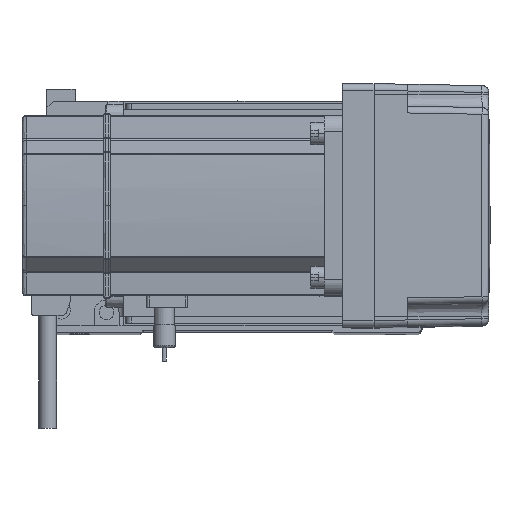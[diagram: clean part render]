
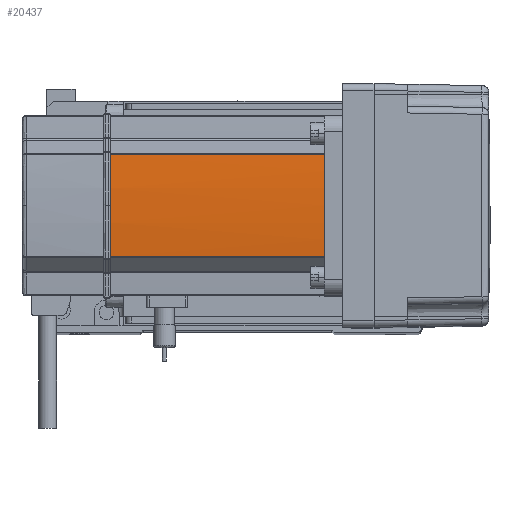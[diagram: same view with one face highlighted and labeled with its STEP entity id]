
A CAD part, top view. The second image highlights one B-rep face of the part: STEP entity #20437.
In plain terms, the highlighted cylindrical face has radius 270 mm (diameter 540 mm), a partial arc.
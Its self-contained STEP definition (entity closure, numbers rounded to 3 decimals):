
#112 = ORIENTED_EDGE ( 'NONE', *, *, #541, .T. ) ;
#541 = EDGE_CURVE ( 'NONE', #13506, #49333, #27135, .T. ) ;
#1915 = CARTESIAN_POINT ( 'NONE',  ( -39.042, -22.724, 39. ) ) ;
#2115 = CARTESIAN_POINT ( 'NONE',  ( -39.042, 22.724, 0. ) ) ;
#2308 = VERTEX_POINT ( 'NONE', #15108 ) ;
#3139 = CIRCLE ( 'NONE', #52728, 270. ) ;
#3818 = VERTEX_POINT ( 'NONE', #1915 ) ;
#9547 = FACE_OUTER_BOUND ( 'NONE', #40605, .T. ) ;
#9891 = CARTESIAN_POINT ( 'NONE',  ( 230., 0., 134. ) ) ;
#10644 = CARTESIAN_POINT ( 'NONE',  ( -39.042, -22.724, 0. ) ) ;
#10738 = DIRECTION ( 'NONE',  ( 0., 0., -1. ) ) ;
#11198 = DIRECTION ( 'NONE',  ( 0., 0., 1. ) ) ;
#12458 = AXIS2_PLACEMENT_3D ( 'NONE', #36797, #10738, #54570 ) ;
#13506 = VERTEX_POINT ( 'NONE', #30343 ) ;
#14255 = DIRECTION ( 'NONE',  ( 0., 0., -1. ) ) ;
#15108 = CARTESIAN_POINT ( 'NONE',  ( -39.042, -22.724, 134. ) ) ;
#15814 = DIRECTION ( 'NONE',  ( 1., 0., 0. ) ) ;
#16363 = EDGE_CURVE ( 'NONE', #24683, #13506, #3139, .T. ) ;
#19768 = CYLINDRICAL_SURFACE ( 'NONE', #37130, 270. ) ;
#20437 = ADVANCED_FACE ( 'NONE', ( #9547 ), #19768, .T. ) ;
#21722 = EDGE_CURVE ( 'NONE', #3818, #2308, #40428, .T. ) ;
#21771 = CARTESIAN_POINT ( 'NONE',  ( -39.042, 22.724, 39. ) ) ;
#24518 = CARTESIAN_POINT ( 'NONE',  ( 230., 0., 134. ) ) ;
#24683 = VERTEX_POINT ( 'NONE', #50609 ) ;
#25786 = AXIS2_PLACEMENT_3D ( 'NONE', #9891, #14255, #36142 ) ;
#27135 = LINE ( 'NONE', #2115, #53131 ) ;
#30343 = CARTESIAN_POINT ( 'NONE',  ( -39.042, 22.724, 134. ) ) ;
#31863 = CIRCLE ( 'NONE', #12458, 270. ) ;
#35692 = EDGE_CURVE ( 'NONE', #3818, #49333, #31863, .T. ) ;
#36142 = DIRECTION ( 'NONE',  ( 1., 0., 0. ) ) ;
#36797 = CARTESIAN_POINT ( 'NONE',  ( 230., 0., 39. ) ) ;
#37130 = AXIS2_PLACEMENT_3D ( 'NONE', #37726, #41983, #15814 ) ;
#37726 = CARTESIAN_POINT ( 'NONE',  ( 230., 0., 0. ) ) ;
#37848 = DIRECTION ( 'NONE',  ( 1., 0., 0. ) ) ;
#38618 = ORIENTED_EDGE ( 'NONE', *, *, #16363, .T. ) ;
#40428 = LINE ( 'NONE', #10644, #55409 ) ;
#40605 = EDGE_LOOP ( 'NONE', ( #55180, #38618, #112, #46821, #47003 ) ) ;
#41983 = DIRECTION ( 'NONE',  ( 0., 0., 1. ) ) ;
#45227 = DIRECTION ( 'NONE',  ( 0., 0., -1. ) ) ;
#46821 = ORIENTED_EDGE ( 'NONE', *, *, #35692, .F. ) ;
#47003 = ORIENTED_EDGE ( 'NONE', *, *, #21722, .T. ) ;
#48120 = CIRCLE ( 'NONE', #25786, 270. ) ;
#49333 = VERTEX_POINT ( 'NONE', #21771 ) ;
#50609 = CARTESIAN_POINT ( 'NONE',  ( -40., 0., 134. ) ) ;
#50670 = DIRECTION ( 'NONE',  ( 0., 0., -1. ) ) ;
#52728 = AXIS2_PLACEMENT_3D ( 'NONE', #24518, #50670, #37848 ) ;
#53131 = VECTOR ( 'NONE', #45227, 1000. ) ;
#53479 = EDGE_CURVE ( 'NONE', #2308, #24683, #48120, .T. ) ;
#54570 = DIRECTION ( 'NONE',  ( 1., 0., 0. ) ) ;
#55180 = ORIENTED_EDGE ( 'NONE', *, *, #53479, .T. ) ;
#55409 = VECTOR ( 'NONE', #11198, 1000. ) ;
